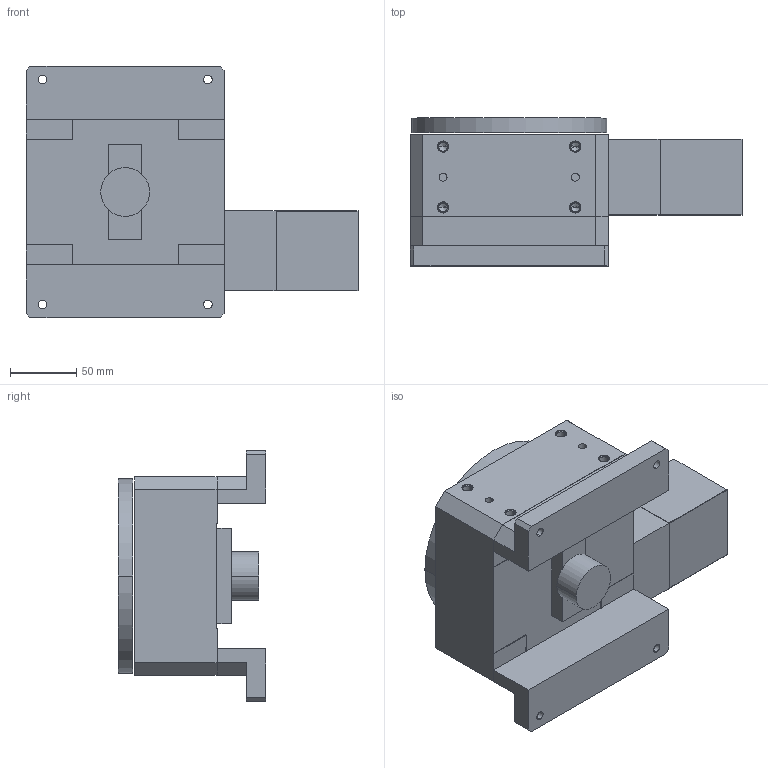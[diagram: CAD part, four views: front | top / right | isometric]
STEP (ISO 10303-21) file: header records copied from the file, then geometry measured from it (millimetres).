
FILE_DESCRIPTION((''),'2;1');
FILE_NAME('R150M7M23E1_ASM','2009-07-02T',('FK20128'),(''),'PRO/ENGINEER BY PARAMETRIC TECHNOLOGY CORPORATION, 2006200','PRO/ENGINEER BY PARAMETRIC TECHNOLOGY CORPORATION, 2006200','');
FILE_SCHEMA(('CONFIG_CONTROL_DESIGN'));
Length unit declared in the file: millimetre
Products named in the file (7): R150M; R150M-M23; R150M-ENCODER-BRKT; R150M-ENCODER-STANDOFF; RXXXM-ENCODER; R150M-E1_ASM; R150M7M23E1_ASM
Assembly tree (7 placements, depth 3):
  R150M7M23E1_ASM
    R150M
    R150M-M23
    R150M-E1_ASM
      R150M-ENCODER-BRKT
      R150M-ENCODER-STANDOFF  x2
      RXXXM-ENCODER
Bounding box: 251.12 x 111.83 x 190 mm (x, y, z)
Volume: 2145423.4 mm3; surface area: 239800.8 mm2
Topology: 7 solids, 27 shells, 291 faces, 707 edges, 468 vertices
Faces by surface type: cylinder 154, plane 111, cone 26
Entity records: 7987 total; most frequent: DIRECTION 1521, CARTESIAN_POINT 1326, ORIENTED_EDGE 1170, EDGE_CURVE 621, AXIS2_PLACEMENT_3D 615, VERTEX_POINT 420, EDGE_LOOP 349, CIRCLE 330
